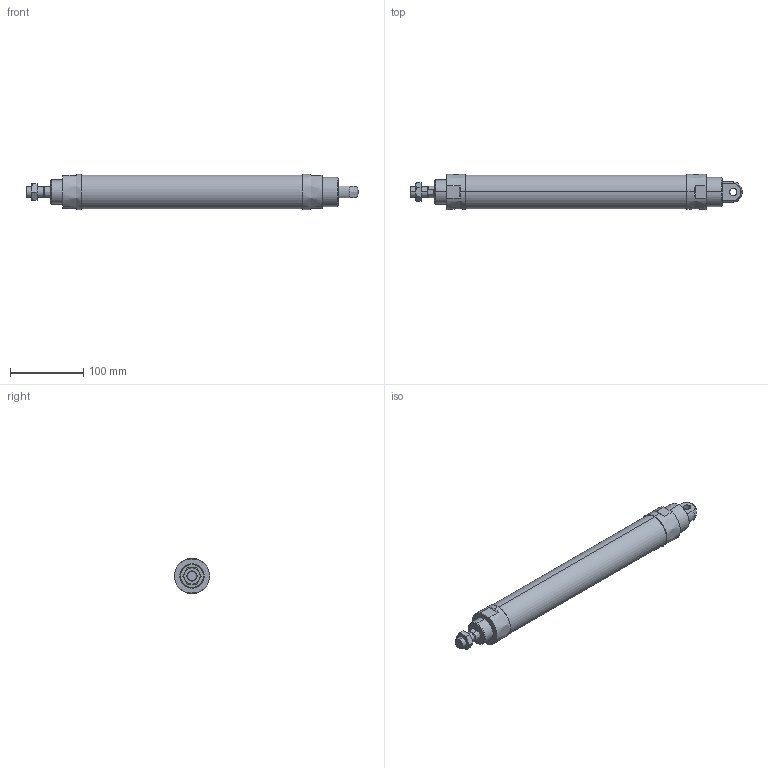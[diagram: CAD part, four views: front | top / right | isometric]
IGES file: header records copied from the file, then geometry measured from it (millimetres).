
Start section: SolidWorks IGES file using analytic representation for surfaces
Global section: file name: C:\Users\Toshiba\Desktop\J#2-40-250-C.IGS; native system: SolidWorks 2014; preprocessor: SolidWorks 2014; author: Toshiba; date: 160308.160732; units: millimetre
Bounding box: 452 x 48 x 48 mm (x, y, z)
Surface area: 65853.1 mm2 (no closed solid volume)
Topology: 0 solids, 0 shells, 81 faces, 1622 edges, 1618 vertices
Faces by surface type: bspline 42, revolution 39
